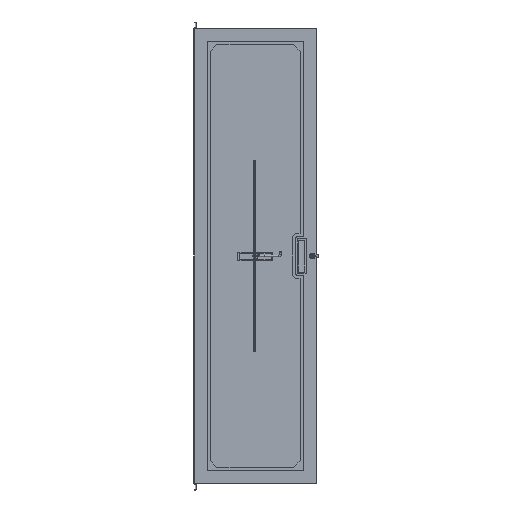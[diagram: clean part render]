
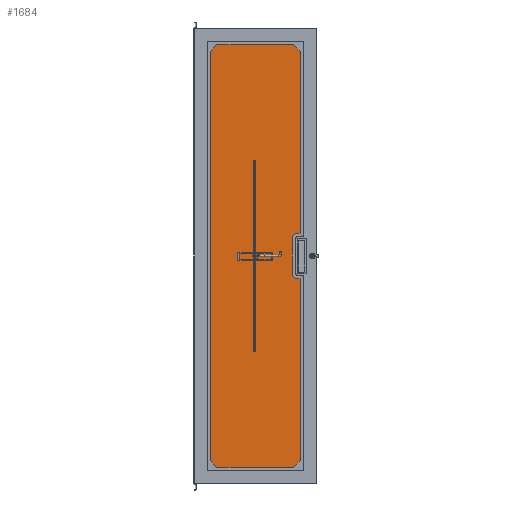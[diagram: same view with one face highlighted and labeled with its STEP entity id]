
A CAD part, front view. The second image highlights one B-rep face of the part: STEP entity #1684.
In plain terms, the highlighted planar face has unit normal (0, -1, 0).
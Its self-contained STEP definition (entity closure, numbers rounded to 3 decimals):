
#1684 = ADVANCED_FACE( '', ( #2465 ), #2466, .T. );
#2465 = FACE_OUTER_BOUND( '', #3463, .T. );
#2466 = PLANE( '', #3464 );
#3463 = EDGE_LOOP( '', ( #5814, #5815, #5816, #5817, #5818, #5819, #5820, #5821, #5822, #5823, #5824, #5825 ) );
#3464 = AXIS2_PLACEMENT_3D( '', #5826, #5827, #5828 );
#5814 = ORIENTED_EDGE( '', *, *, #6792, .T. );
#5815 = ORIENTED_EDGE( '', *, *, #6796, .T. );
#5816 = ORIENTED_EDGE( '', *, *, #6799, .T. );
#5817 = ORIENTED_EDGE( '', *, *, #6800, .T. );
#5818 = ORIENTED_EDGE( '', *, *, #6801, .T. );
#5819 = ORIENTED_EDGE( '', *, *, #6802, .T. );
#5820 = ORIENTED_EDGE( '', *, *, #6803, .T. );
#5821 = ORIENTED_EDGE( '', *, *, #6804, .T. );
#5822 = ORIENTED_EDGE( '', *, *, #6805, .T. );
#5823 = ORIENTED_EDGE( '', *, *, #6806, .T. );
#5824 = ORIENTED_EDGE( '', *, *, #6807, .T. );
#5825 = ORIENTED_EDGE( '', *, *, #6808, .T. );
#5826 = CARTESIAN_POINT( '', ( 180.975, 0., -81.756 ) );
#5827 = DIRECTION( '', ( 0., -1., 0. ) );
#5828 = DIRECTION( '', ( 0., 0., -1. ) );
#6792 = EDGE_CURVE( '', #8019, #8020, #8021, .T. );
#6796 = EDGE_CURVE( '', #8020, #8027, #8028, .T. );
#6799 = EDGE_CURVE( '', #8027, #8032, #8033, .T. );
#6800 = EDGE_CURVE( '', #8032, #8034, #8035, .T. );
#6801 = EDGE_CURVE( '', #8034, #8036, #8037, .T. );
#6802 = EDGE_CURVE( '', #8036, #8038, #8039, .T. );
#6803 = EDGE_CURVE( '', #8038, #8040, #8041, .T. );
#6804 = EDGE_CURVE( '', #8040, #8042, #8043, .T. );
#6805 = EDGE_CURVE( '', #8042, #8044, #8045, .T. );
#6806 = EDGE_CURVE( '', #8044, #8046, #8047, .T. );
#6807 = EDGE_CURVE( '', #8046, #8048, #8049, .T. );
#6808 = EDGE_CURVE( '', #8048, #8019, #8050, .T. );
#8019 = VERTEX_POINT( '', #9955 );
#8020 = VERTEX_POINT( '', #9956 );
#8021 = LINE( '', #9957, #9958 );
#8027 = VERTEX_POINT( '', #9967 );
#8028 = LINE( '', #9968, #9969 );
#8032 = VERTEX_POINT( '', #9975 );
#8033 = LINE( '', #9976, #9977 );
#8034 = VERTEX_POINT( '', #9978 );
#8035 = CIRCLE( '', #9979, 6.35 );
#8036 = VERTEX_POINT( '', #9980 );
#8037 = LINE( '', #9981, #9982 );
#8038 = VERTEX_POINT( '', #9983 );
#8039 = CIRCLE( '', #9984, 6.35 );
#8040 = VERTEX_POINT( '', #9985 );
#8041 = LINE( '', #9986, #9987 );
#8042 = VERTEX_POINT( '', #9988 );
#8043 = CIRCLE( '', #9989, 6.35 );
#8044 = VERTEX_POINT( '', #9990 );
#8045 = LINE( '', #9991, #9992 );
#8046 = VERTEX_POINT( '', #9993 );
#8047 = CIRCLE( '', #9994, 6.35 );
#8048 = VERTEX_POINT( '', #9995 );
#8049 = LINE( '', #9996, #9997 );
#8050 = LINE( '', #9998, #9999 );
#9955 = CARTESIAN_POINT( '', ( -187.325, 0., 834.238 ) );
#9956 = CARTESIAN_POINT( '', ( -187.325, 0., -834.238 ) );
#9957 = CARTESIAN_POINT( '', ( -187.325, 0., 834.238 ) );
#9958 = VECTOR( '', #11331, 1000. );
#9967 = CARTESIAN_POINT( '', ( 187.325, 0., -834.238 ) );
#9968 = CARTESIAN_POINT( '', ( -187.325, 0., -834.238 ) );
#9969 = VECTOR( '', #11335, 1000. );
#9975 = CARTESIAN_POINT( '', ( 187.325, 0., -81.756 ) );
#9976 = CARTESIAN_POINT( '', ( 187.325, 0., -834.238 ) );
#9977 = VECTOR( '', #11338, 1000. );
#9978 = CARTESIAN_POINT( '', ( 180.975, 0., -75.406 ) );
#9979 = AXIS2_PLACEMENT_3D( '', #11339, #11340, #11341 );
#9980 = CARTESIAN_POINT( '', ( 163.513, 0., -75.406 ) );
#9981 = CARTESIAN_POINT( '', ( 180.975, 0., -75.406 ) );
#9982 = VECTOR( '', #11342, 1000. );
#9983 = CARTESIAN_POINT( '', ( 157.163, 0., -69.056 ) );
#9984 = AXIS2_PLACEMENT_3D( '', #11343, #11344, #11345 );
#9985 = CARTESIAN_POINT( '', ( 157.163, 0., 69.056 ) );
#9986 = CARTESIAN_POINT( '', ( 157.163, 0., 69.056 ) );
#9987 = VECTOR( '', #11346, 1000. );
#9988 = CARTESIAN_POINT( '', ( 163.513, 0., 75.406 ) );
#9989 = AXIS2_PLACEMENT_3D( '', #11347, #11348, #11349 );
#9990 = CARTESIAN_POINT( '', ( 180.975, 0., 75.406 ) );
#9991 = CARTESIAN_POINT( '', ( 180.975, 0., 75.406 ) );
#9992 = VECTOR( '', #11350, 1000. );
#9993 = CARTESIAN_POINT( '', ( 187.325, 0., 81.756 ) );
#9994 = AXIS2_PLACEMENT_3D( '', #11351, #11352, #11353 );
#9995 = CARTESIAN_POINT( '', ( 187.325, 0., 834.238 ) );
#9996 = CARTESIAN_POINT( '', ( 187.325, 0., 81.756 ) );
#9997 = VECTOR( '', #11354, 1000. );
#9998 = CARTESIAN_POINT( '', ( 187.325, 0., 834.238 ) );
#9999 = VECTOR( '', #11355, 1000. );
#11331 = DIRECTION( '', ( 0., 0., -1. ) );
#11335 = DIRECTION( '', ( 1., 0., 0. ) );
#11338 = DIRECTION( '', ( 0., 0., 1. ) );
#11339 = CARTESIAN_POINT( '', ( 180.975, 0., -81.756 ) );
#11340 = DIRECTION( '', ( 0., -1., 0. ) );
#11341 = DIRECTION( '', ( -1., 0., 0. ) );
#11342 = DIRECTION( '', ( -1., 0., 0. ) );
#11343 = CARTESIAN_POINT( '', ( 163.513, 0., -69.056 ) );
#11344 = DIRECTION( '', ( 0., 1., 0. ) );
#11345 = DIRECTION( '', ( 1., 0., 0. ) );
#11346 = DIRECTION( '', ( 0., 0., 1. ) );
#11347 = CARTESIAN_POINT( '', ( 163.513, 0., 69.056 ) );
#11348 = DIRECTION( '', ( 0., 1., 0. ) );
#11349 = DIRECTION( '', ( 1., 0., 0. ) );
#11350 = DIRECTION( '', ( 1., 0., 0. ) );
#11351 = CARTESIAN_POINT( '', ( 180.975, 0., 81.756 ) );
#11352 = DIRECTION( '', ( 0., -1., 0. ) );
#11353 = DIRECTION( '', ( -1., 0., 0. ) );
#11354 = DIRECTION( '', ( 0., 0., 1. ) );
#11355 = DIRECTION( '', ( -1., 0., 0. ) );
